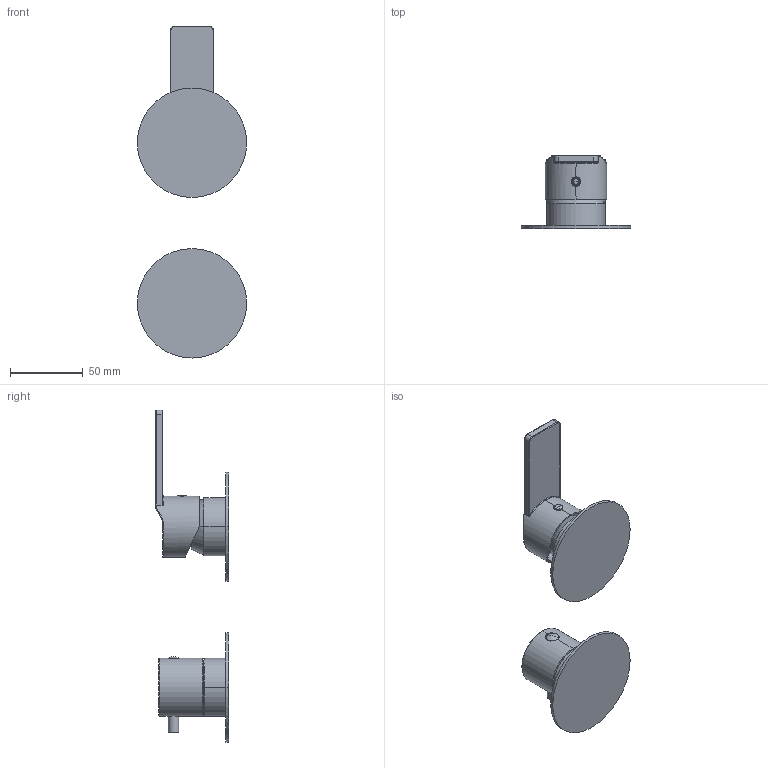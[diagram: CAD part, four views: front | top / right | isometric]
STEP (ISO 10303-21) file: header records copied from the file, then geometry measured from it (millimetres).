
FILE_DESCRIPTION((''),'2;1');
FILE_NAME('47553V2_SW0001','2024-12-16T14:09:23',('carloff'),(''),'CREO PARAMETRIC BY PTC INC, 2022014','CREO PARAMETRIC BY PTC INC, 2022014','');
FILE_SCHEMA(('CONFIG_CONTROL_DESIGN'));
Length unit declared in the file: millimetre
Products named in the file (1): 47553V2_SW0001
Bounding box: 75 x 50.1 x 227.5 mm (x, y, z)
Volume: 122003.6 mm3; surface area: 42967.8 mm2
Topology: 2 solids, 2 shells, 243 faces, 631 edges, 389 vertices
Faces by surface type: plane 83, cylinder 81, torus 34, bspline 26, cone 15, sphere 4
Entity records: 14050 total; most frequent: CARTESIAN_POINT 8301, ORIENTED_EDGE 1250, DIRECTION 1131, EDGE_CURVE 625, AXIS2_PLACEMENT_3D 431, VERTEX_POINT 389, VECTOR 269, LINE 269
